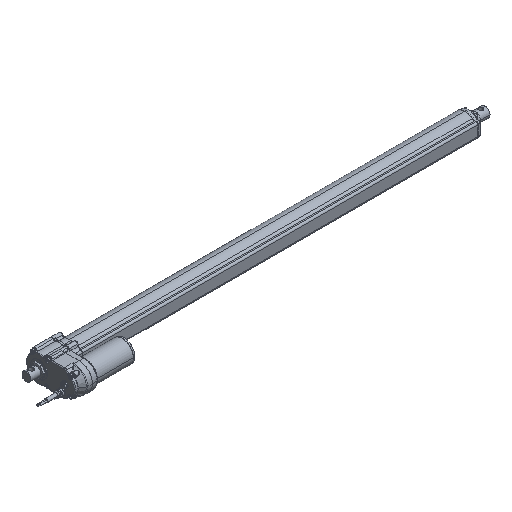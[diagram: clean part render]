
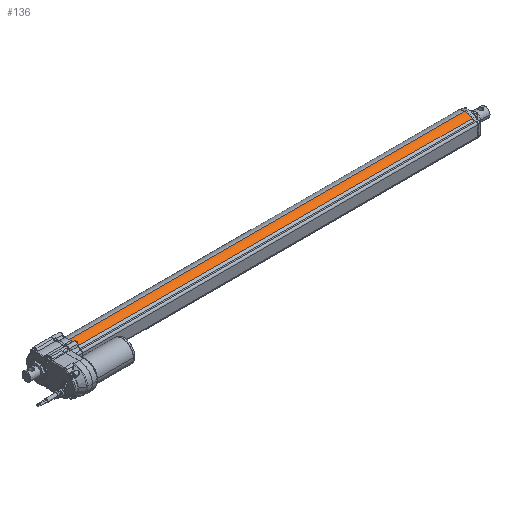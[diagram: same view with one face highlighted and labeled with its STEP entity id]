
A CAD part, isometric view. The second image highlights one B-rep face of the part: STEP entity #136.
In plain terms, the highlighted cylindrical face has radius 30.5 mm (diameter 61 mm), a partial arc.
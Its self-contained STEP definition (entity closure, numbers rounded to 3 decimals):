
#136=ADVANCED_FACE('',(#1138),#1139,.T.);
#1138=FACE_OUTER_BOUND('',#3063,.T.);
#1139=CYLINDRICAL_SURFACE('',#3064,30.5);
#3063=EDGE_LOOP('',(#8479,#8480,#8481,#8482));
#3064=AXIS2_PLACEMENT_3D('',#8483,#8484,#8485);
#8479=ORIENTED_EDGE('',*,*,#15518,.F.);
#8480=ORIENTED_EDGE('',*,*,#15519,.F.);
#8481=ORIENTED_EDGE('',*,*,#15520,.T.);
#8482=ORIENTED_EDGE('',*,*,#15521,.F.);
#8483=CARTESIAN_POINT('',(94.3,0.,0.));
#8484=DIRECTION('',(1.0,0.,0.));
#8485=DIRECTION('',(0.,0.,1.0));
#15518=EDGE_CURVE('',#18125,#18126,#18127,.T.);
#15519=EDGE_CURVE('',#18128,#18125,#18129,.T.);
#15520=EDGE_CURVE('',#18128,#18130,#18131,.T.);
#15521=EDGE_CURVE('',#18126,#18130,#18132,.T.);
#18125=VERTEX_POINT('',#23105);
#18126=VERTEX_POINT('',#23106);
#18127=LINE('',#23107,#23108);
#18128=VERTEX_POINT('',#23109);
#18129=CIRCLE('',#23110,30.5);
#18130=VERTEX_POINT('',#23111);
#18131=LINE('',#23112,#23113);
#18132=CIRCLE('',#23114,30.5);
#23105=CARTESIAN_POINT('',(94.3,0.,30.5));
#23106=CARTESIAN_POINT('',(1239.5,0.,30.5));
#23107=CARTESIAN_POINT('',(94.3,0.,30.5));
#23108=VECTOR('',#38996,1.0);
#23109=CARTESIAN_POINT('',(94.3,-20.49,22.593));
#23110=AXIS2_PLACEMENT_3D('',#38997,#38998,#38999);
#23111=CARTESIAN_POINT('',(1239.5,-20.49,22.593));
#23112=CARTESIAN_POINT('',(94.3,-20.49,22.593));
#23113=VECTOR('',#39000,1.0);
#23114=AXIS2_PLACEMENT_3D('',#39001,#39002,#39003);
#38996=DIRECTION('',(1.0,0.,0.));
#38997=CARTESIAN_POINT('',(94.3,0.,0.));
#38998=DIRECTION('',(-1.0,0.,0.));
#38999=DIRECTION('',(0.,0.,1.0));
#39000=DIRECTION('',(1.0,0.,0.));
#39001=CARTESIAN_POINT('',(1239.5,0.,0.));
#39002=DIRECTION('',(1.0,0.,0.));
#39003=DIRECTION('',(0.,0.,1.0));
